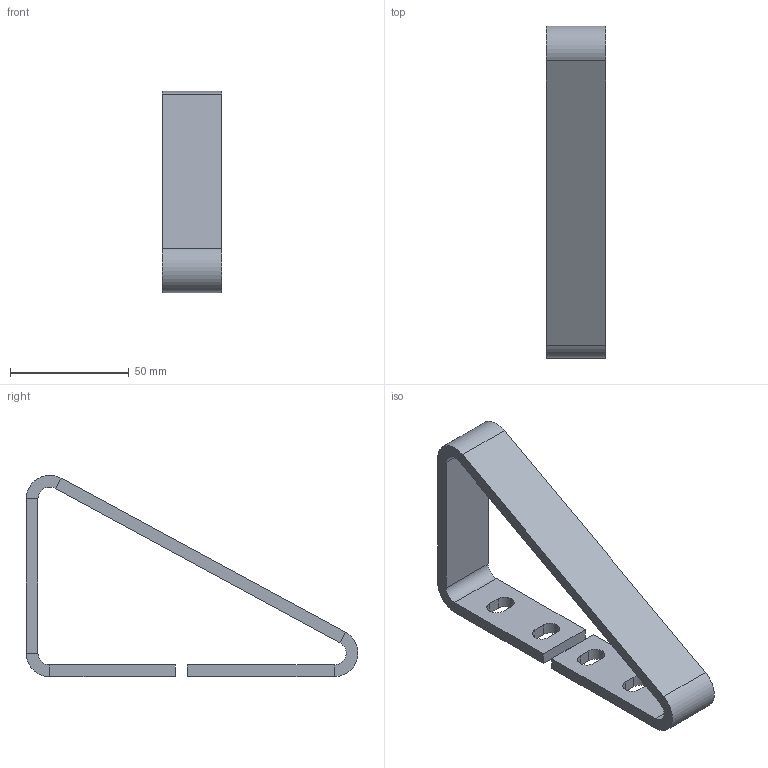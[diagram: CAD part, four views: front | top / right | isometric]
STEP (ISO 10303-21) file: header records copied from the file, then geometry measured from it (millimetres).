
FILE_DESCRIPTION(('FreeCAD Model'),'2;1');
FILE_NAME('Open CASCADE Shape Model','2026-10-13T14:01:04',(''),(''), 'Open CASCADE STEP processor 7.9','FreeCAD','Unknown');
FILE_SCHEMA(('AUTOMOTIVE_DESIGN { 1 0 10303 214 1 1 1 1 }'));
Length unit declared in the file: millimetre
Products named in the file (1): Pocket
Bounding box: 25 x 139.97 x 85 mm (x, y, z)
Volume: 43644.4 mm3; surface area: 22046.4 mm2
Topology: 1 solids, 1 shells, 46 faces, 108 edges, 64 vertices
Faces by surface type: plane 26, cylinder 14, bspline 6
Entity records: 1406 total; most frequent: CARTESIAN_POINT 349, ORIENTED_EDGE 216, DIRECTION 202, EDGE_CURVE 108, AXIS2_PLACEMENT_3D 69, VERTEX_POINT 64, LINE 64, VECTOR 64
